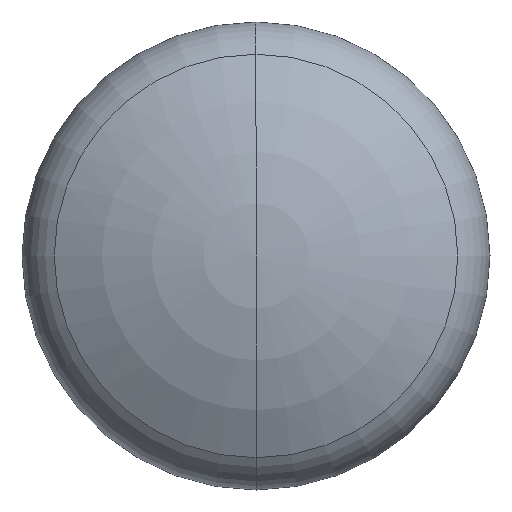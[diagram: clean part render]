
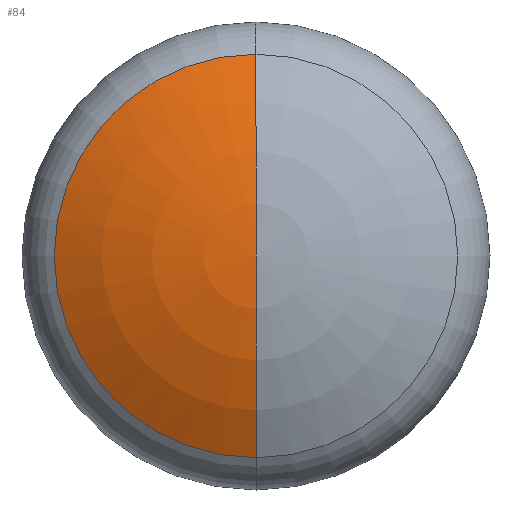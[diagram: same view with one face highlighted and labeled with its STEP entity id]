
A CAD part, front view. The second image highlights one B-rep face of the part: STEP entity #84.
In plain terms, the highlighted toroidal (fillet/blend) face has major radius 0.398 mm and minor radius 24.809 mm.
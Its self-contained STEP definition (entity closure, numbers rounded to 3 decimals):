
#84 = ADVANCED_FACE( '', ( #111 ), #112, .T. );
#111 = FACE_OUTER_BOUND( '', #145, .T. );
#112 = TOROIDAL_SURFACE( '', #146, 0.398, 24.809 );
#145 = EDGE_LOOP( '', ( #229, #230, #231 ) );
#146 = AXIS2_PLACEMENT_3D( '', #232, #233, #234 );
#229 = ORIENTED_EDGE( '', *, *, #319, .T. );
#230 = ORIENTED_EDGE( '', *, *, #320, .T. );
#231 = ORIENTED_EDGE( '', *, *, #295, .F. );
#232 = CARTESIAN_POINT( '', ( 0., 0.006, 0. ) );
#233 = DIRECTION( '', ( 0., 1., 0. ) );
#234 = DIRECTION( '', ( 0., 0., 1. ) );
#295 = EDGE_CURVE( '', #339, #341, #342, .T. );
#319 = EDGE_CURVE( '', #339, #377, #378, .T. );
#320 = EDGE_CURVE( '', #377, #341, #379, .T. );
#339 = VERTEX_POINT( '', #400 );
#341 = VERTEX_POINT( '', #402 );
#342 = CIRCLE( '', #403, 12.5 );
#377 = VERTEX_POINT( '', #440 );
#378 = CIRCLE( '', #441, 24.809 );
#379 = CIRCLE( '', #442, 24.809 );
#400 = CARTESIAN_POINT( '', ( 0., -21.651, -12.5 ) );
#402 = CARTESIAN_POINT( '', ( 0., -21.651, 12.5 ) );
#403 = AXIS2_PLACEMENT_3D( '', #471, #472, #473 );
#440 = CARTESIAN_POINT( '', ( 0., -24.8, 0. ) );
#441 = AXIS2_PLACEMENT_3D( '', #539, #540, #541 );
#442 = AXIS2_PLACEMENT_3D( '', #542, #543, #544 );
#471 = CARTESIAN_POINT( '', ( 0., -21.651, 0. ) );
#472 = DIRECTION( '', ( 0., 1., 0. ) );
#473 = DIRECTION( '', ( 1., 0., 0. ) );
#539 = CARTESIAN_POINT( '', ( 0., 0.006, -0.398 ) );
#540 = DIRECTION( '', ( -1., 0., 0. ) );
#541 = DIRECTION( '', ( 0., 0., -1. ) );
#542 = CARTESIAN_POINT( '', ( 0., 0.006, 0.398 ) );
#543 = DIRECTION( '', ( -1., 0., 0. ) );
#544 = DIRECTION( '', ( 0., 0., 1. ) );
